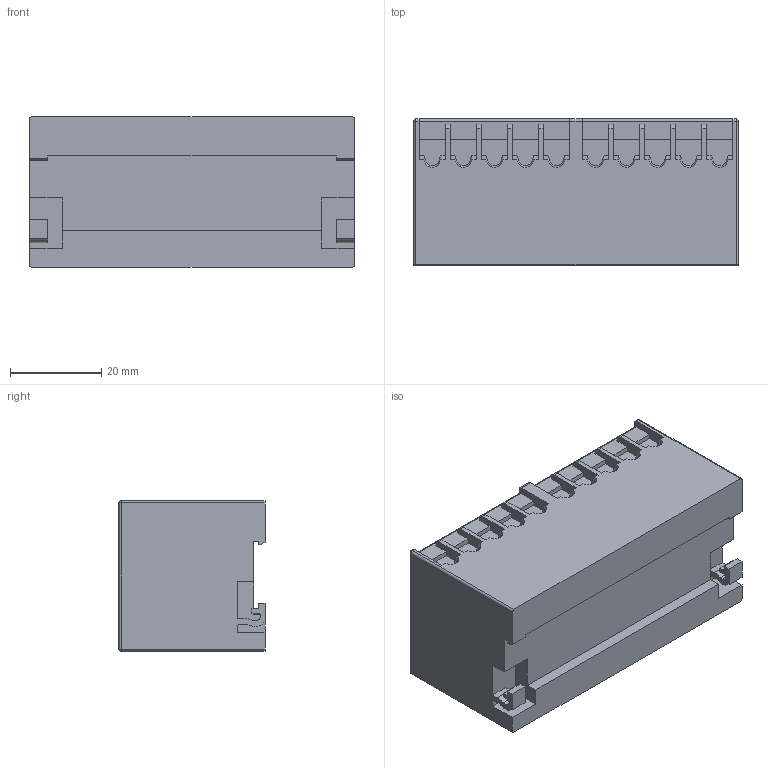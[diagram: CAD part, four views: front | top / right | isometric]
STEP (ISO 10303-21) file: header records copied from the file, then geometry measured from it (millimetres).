
FILE_DESCRIPTION (( 'STEP AP203' ), '1' );
FILE_NAME ('K0-W05.STEP', '2015-03-18T07:50:34', ( 'schulung' ), ( 'Microsoft' ), 'SwSTEP 2.0', 'SolidWorks 2015', '' );
FILE_SCHEMA (( 'CONFIG_CONTROL_DESIGN' ));
Length unit declared in the file: millimetre
Products named in the file (1): K0-W05
Bounding box: 71.2 x 32 x 33 mm (x, y, z)
Volume: 67655.9 mm3; surface area: 14356 mm2
Topology: 1 solids, 1 shells, 471 faces, 1293 edges, 842 vertices
Faces by surface type: plane 302, cylinder 145, cone 20, sphere 4
Entity records: 14874 total; most frequent: CARTESIAN_POINT 2723, ORIENTED_EDGE 2578, DIRECTION 2463, EDGE_CURVE 1289, LINE 979, VECTOR 979, VERTEX_POINT 842, AXIS2_PLACEMENT_3D 742
